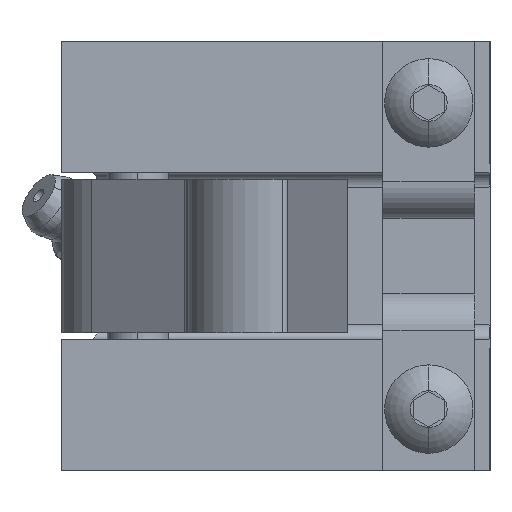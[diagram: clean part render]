
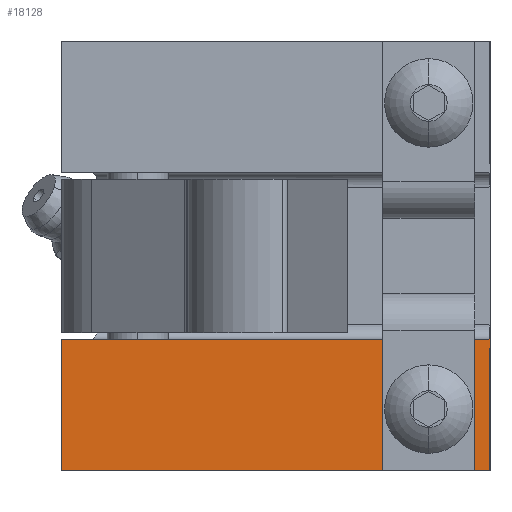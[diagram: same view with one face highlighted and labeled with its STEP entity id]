
A CAD part, left-side view. The second image highlights one B-rep face of the part: STEP entity #18128.
In plain terms, the highlighted planar face has unit normal (-1, 0, 0).
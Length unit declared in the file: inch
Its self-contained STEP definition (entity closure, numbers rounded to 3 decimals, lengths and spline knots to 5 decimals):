
#58 = VERTEX_POINT ( 'NONE', #23863 ) ;
#7212 = EDGE_CURVE ( 'NONE', #58, #7213, #8526, .T. ) ;
#7213 = VERTEX_POINT ( 'NONE', #8518 ) ;
#8518 = CARTESIAN_POINT ( 'NONE',  ( 7.4273, 3.84026, -1.40625 ) ) ;
#8519 = DIRECTION ( 'NONE',  ( 0., 0., 1. ) ) ;
#8520 = DIRECTION ( 'NONE',  ( -1., 0., 0. ) ) ;
#8522 = CARTESIAN_POINT ( 'NONE',  ( 7.4273, 3.84026, -1.5 ) ) ;
#8524 = AXIS2_PLACEMENT_3D ( 'NONE', #8522, #8520, #8519 ) ;
#8526 = CIRCLE ( 'NONE', #8524, 0.09375 ) ;
#12202 = CARTESIAN_POINT ( 'NONE',  ( 7.4273, 3.59026, -1.75 ) ) ;
#12203 = DIRECTION ( 'NONE',  ( 0., 0., 1. ) ) ;
#12204 = VECTOR ( 'NONE', #12203, 39.37008 ) ;
#12205 = CARTESIAN_POINT ( 'NONE',  ( 7.4273, 3.59026, -1.75 ) ) ;
#12206 = LINE ( 'NONE', #12205, #12204 ) ;
#12207 = CARTESIAN_POINT ( 'NONE',  ( 7.4273, 3.59026, -1.215 ) ) ;
#12263 = DIRECTION ( 'NONE',  ( 0., -1., 0. ) ) ;
#12264 = VECTOR ( 'NONE', #12263, 39.37008 ) ;
#12265 = CARTESIAN_POINT ( 'NONE',  ( 7.4273, 3.59026, -1.75 ) ) ;
#12266 = LINE ( 'NONE', #12265, #12264 ) ;
#12289 = CARTESIAN_POINT ( 'NONE',  ( 7.4273, 5.34026, -1.75 ) ) ;
#12290 = DIRECTION ( 'NONE',  ( 0., 0., 1. ) ) ;
#12291 = VECTOR ( 'NONE', #12290, 39.37008 ) ;
#12292 = CARTESIAN_POINT ( 'NONE',  ( 7.4273, 5.34026, -1.75 ) ) ;
#12293 = LINE ( 'NONE', #12292, #12291 ) ;
#12294 = CARTESIAN_POINT ( 'NONE',  ( 7.4273, 5.34026, -1.215 ) ) ;
#12295 = DIRECTION ( 'NONE',  ( 0., -1., 0. ) ) ;
#12296 = VECTOR ( 'NONE', #12295, 39.37008 ) ;
#12297 = CARTESIAN_POINT ( 'NONE',  ( 7.4273, 3.59026, -1.215 ) ) ;
#12298 = LINE ( 'NONE', #12297, #12296 ) ;
#12299 = DIRECTION ( 'NONE',  ( 0., 0., 1. ) ) ;
#12300 = DIRECTION ( 'NONE',  ( -1., 0., 0. ) ) ;
#12301 = AXIS2_PLACEMENT_3D ( 'NONE', #12306, #12300, #12299 ) ;
#12302 = CIRCLE ( 'NONE', #12301, 0.09375 ) ;
#12303 = DIRECTION ( 'NONE',  ( 0., 0., 1. ) ) ;
#12304 = DIRECTION ( 'NONE',  ( -1., 0., 0. ) ) ;
#12305 = CARTESIAN_POINT ( 'NONE',  ( 7.4273, 3.59026, -1.75 ) ) ;
#12306 = CARTESIAN_POINT ( 'NONE',  ( 7.4273, 3.84026, -1.5 ) ) ;
#12307 = AXIS2_PLACEMENT_3D ( 'NONE', #12305, #12304, #12303 ) ;
#12308 = PLANE ( 'NONE',  #12307 ) ;
#12309 = FACE_OUTER_BOUND ( 'NONE', #18133, .T. ) ;
#12310 = FACE_BOUND ( 'NONE', #18129, .T. ) ;
#18072 = VERTEX_POINT ( 'NONE', #12207 ) ;
#18074 = EDGE_CURVE ( 'NONE', #18075, #18072, #12206, .T. ) ;
#18075 = VERTEX_POINT ( 'NONE', #12202 ) ;
#18114 = ORIENTED_EDGE ( 'NONE', *, *, #18115, .T. ) ;
#18115 = EDGE_CURVE ( 'NONE', #18139, #18075, #12266, .T. ) ;
#18116 = ORIENTED_EDGE ( 'NONE', *, *, #18074, .T. ) ;
#18128 = ADVANCED_FACE ( 'NONE', ( #12310, #12309 ), #12308, .T. ) ;
#18129 = EDGE_LOOP ( 'NONE', ( #18130, #18132 ) ) ;
#18130 = ORIENTED_EDGE ( 'NONE', *, *, #18131, .F. ) ;
#18131 = EDGE_CURVE ( 'NONE', #7213, #58, #12302, .T. ) ;
#18132 = ORIENTED_EDGE ( 'NONE', *, *, #7212, .F. ) ;
#18133 = EDGE_LOOP ( 'NONE', ( #18134, #18137, #18114, #18116 ) ) ;
#18134 = ORIENTED_EDGE ( 'NONE', *, *, #18135, .F. ) ;
#18135 = EDGE_CURVE ( 'NONE', #18136, #18072, #12298, .T. ) ;
#18136 = VERTEX_POINT ( 'NONE', #12294 ) ;
#18137 = ORIENTED_EDGE ( 'NONE', *, *, #18138, .F. ) ;
#18138 = EDGE_CURVE ( 'NONE', #18139, #18136, #12293, .T. ) ;
#18139 = VERTEX_POINT ( 'NONE', #12289 ) ;
#23863 = CARTESIAN_POINT ( 'NONE',  ( 7.4273, 3.84026, -1.59375 ) ) ;
